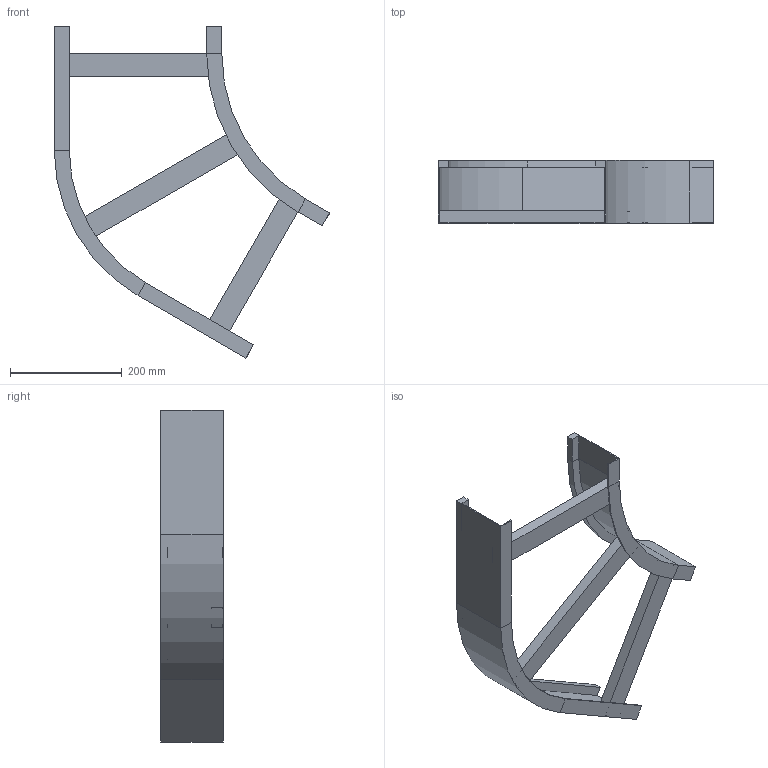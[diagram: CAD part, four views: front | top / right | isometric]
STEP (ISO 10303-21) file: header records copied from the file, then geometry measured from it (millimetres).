
FILE_DESCRIPTION (( 'STEP AP214' ), '1' );
FILE_NAME ('B2_13B3J300.step', '2025-02-21T15:19:59', ( '' ), ( '' ), 'SwSTEP 2.0', 'SolidWorks 2023', '' );
FILE_SCHEMA (( 'AUTOMOTIVE_DESIGN' ));
Length unit declared in the file: millimetre
Products named in the file (5): B2_LONGH.ESTERNO 60°_H112.5_R300+300; TRAVERSINO_L342; TRAVERSINO_300; B2_LONGH.INTERNO 60°_H112.5_R300; B2_13B3J300
Assembly tree (5 placements, depth 2):
  B2_13B3J300
    B2_LONGH.INTERNO 60°_H112.5_R300
    B2_LONGH.ESTERNO 60°_H112.5_R300+300
    TRAVERSINO_300  x2
    TRAVERSINO_L342
Bounding box: 493.3 x 112.5 x 594.62 mm (x, y, z)
Volume: 1305138.3 mm3; surface area: 485082.6 mm2
Topology: 5 solids, 5 shells, 70 faces, 148 edges, 88 vertices
Faces by surface type: plane 62, cylinder 8
Entity records: 1822 total; most frequent: DIRECTION 296, CARTESIAN_POINT 288, ORIENTED_EDGE 272, EDGE_CURVE 136, VECTOR 120, LINE 120, AXIS2_PLACEMENT_3D 88, VERTEX_POINT 80
